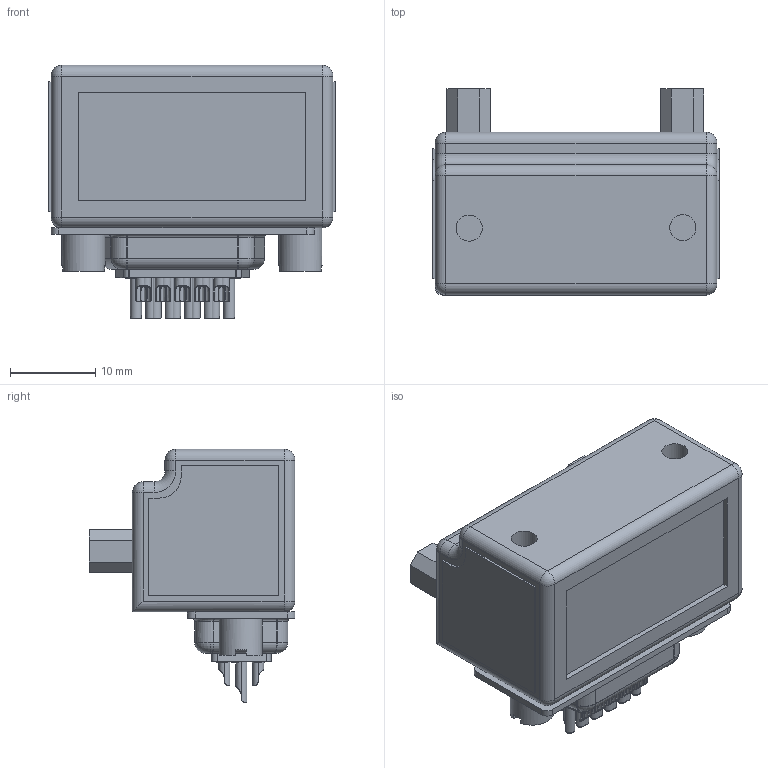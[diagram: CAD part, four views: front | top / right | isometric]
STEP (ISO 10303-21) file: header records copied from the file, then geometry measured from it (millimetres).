
FILE_DESCRIPTION(/* description */ ('Alibre Inc.'),/* implementation_level */ '2;1');
FILE_NAME(/* name */ 'export0',/* time_stamp */ '2008-07-23T11:05:39-07:00',/* author */ (''),/* organization */ (''),/* preprocessor_version */ 'ST-DEVELOPER v10',/* originating_system */ 'Alibre',/* authorisation */ '');
FILE_SCHEMA (('ALIBRE_SCHEMA','CONFIG_CONTROL_DESIGN'));
Length unit declared in the file: inch
Products named in the file (5): ID_1
Bounding box: 33.53 x 24.13 x 29.69 mm (x, y, z)
Volume: 14691.8 mm3; surface area: 8494.7 mm2
Topology: 7 solids, 7 shells, 1187 faces, 2898 edges, 1844 vertices
Faces by surface type: plane 571, cylinder 414, bspline 122, torus 72, sphere 8
Full cylindrical faces by diameter (mm): 3.048 x2, 3.059 x2, 5.08 x2
Entity records: 111729 total; most frequent: CARTESIAN_POINT 56733, ORIENTED_EDGE 11094, DIRECTION 8530, EDGE_CURVE 5547, VERTEX_POINT 3546, AXIS2_PLACEMENT_3D 3258, VECTOR 3234, LINE 3188
